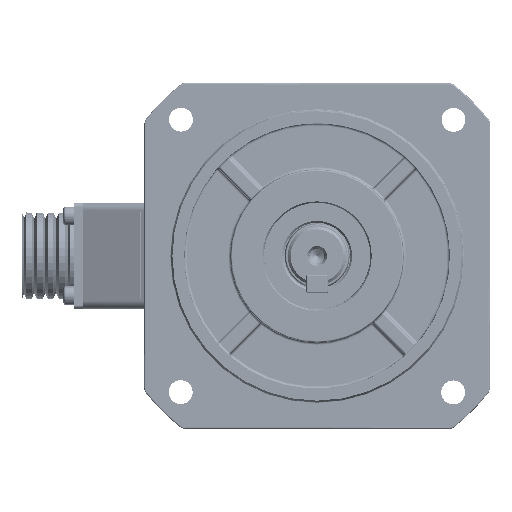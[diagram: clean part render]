
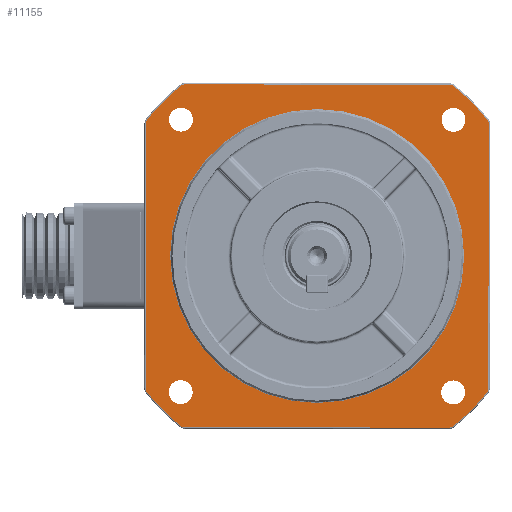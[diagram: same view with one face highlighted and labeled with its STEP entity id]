
A CAD part, left-side view. The second image highlights one B-rep face of the part: STEP entity #11155.
In plain terms, the highlighted planar face has unit normal (-1, 0, 0).
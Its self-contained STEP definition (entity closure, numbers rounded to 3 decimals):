
#1619=CARTESIAN_POINT('',(7.,51.265,-51.265));
#1620=DIRECTION('',(-1.,0.,0.));
#1621=DIRECTION('',(0.,0.,1.));
#1622=AXIS2_PLACEMENT_3D('',#1619,#1620,#1621);
#1624=CARTESIAN_POINT('',(7.,51.265,-51.265));
#1625=DIRECTION('',(-1.,0.,0.));
#1626=DIRECTION('',(0.,0.,-1.));
#1627=AXIS2_PLACEMENT_3D('',#1624,#1625,#1626);
#1629=CARTESIAN_POINT('',(7.,51.265,51.265));
#1630=DIRECTION('',(-1.,0.,0.));
#1631=DIRECTION('',(0.,-1.,0.));
#1632=AXIS2_PLACEMENT_3D('',#1629,#1630,#1631);
#1634=CARTESIAN_POINT('',(7.,51.265,51.265));
#1635=DIRECTION('',(-1.,0.,0.));
#1636=DIRECTION('',(0.,1.,0.));
#1637=AXIS2_PLACEMENT_3D('',#1634,#1635,#1636);
#1639=CARTESIAN_POINT('',(7.,-51.265,51.265));
#1640=DIRECTION('',(-1.,0.,0.));
#1641=DIRECTION('',(0.,0.,-1.));
#1642=AXIS2_PLACEMENT_3D('',#1639,#1640,#1641);
#1644=CARTESIAN_POINT('',(7.,-51.265,51.265));
#1645=DIRECTION('',(-1.,0.,0.));
#1646=DIRECTION('',(0.,0.,1.));
#1647=AXIS2_PLACEMENT_3D('',#1644,#1645,#1646);
#1649=CARTESIAN_POINT('',(7.,-51.265,-51.265));
#1650=DIRECTION('',(-1.,0.,0.));
#1651=DIRECTION('',(0.,1.,0.));
#1652=AXIS2_PLACEMENT_3D('',#1649,#1650,#1651);
#1654=CARTESIAN_POINT('',(7.,-51.265,-51.265));
#1655=DIRECTION('',(-1.,0.,0.));
#1656=DIRECTION('',(0.,-1.,0.));
#1657=AXIS2_PLACEMENT_3D('',#1654,#1655,#1656);
#1659=CARTESIAN_POINT('',(7.,0.,0.));
#1660=DIRECTION('',(-1.,0.,0.));
#1661=DIRECTION('',(0.,1.,0.));
#1662=AXIS2_PLACEMENT_3D('',#1659,#1660,#1661);
#1664=CARTESIAN_POINT('',(7.,0.,0.));
#1665=DIRECTION('',(-1.,0.,0.));
#1666=DIRECTION('',(0.,-1.,0.));
#1667=AXIS2_PLACEMENT_3D('',#1664,#1665,#1666);
#1669=CARTESIAN_POINT('',(7.,-49.762,62.));
#1670=DIRECTION('',(-1.,0.,0.));
#1671=DIRECTION('',(0.,-0.626,0.78));
#1672=AXIS2_PLACEMENT_3D('',#1669,#1670,#1671);
#1674=CARTESIAN_POINT('',(7.,0.,0.));
#1675=DIRECTION('',(-1.,0.,0.));
#1676=DIRECTION('',(0.,-0.78,0.626));
#1677=AXIS2_PLACEMENT_3D('',#1674,#1675,#1676);
#1679=CARTESIAN_POINT('',(7.,-62.,49.762));
#1680=DIRECTION('',(-1.,0.,0.));
#1681=DIRECTION('',(0.,-1.,0.));
#1682=AXIS2_PLACEMENT_3D('',#1679,#1680,#1681);
#1684=DIRECTION('',(0.,0.,1.));
#1685=VECTOR('',#1684,99.524);
#1686=CARTESIAN_POINT('',(7.,-64.5,-49.762));
#1687=LINE('',#1686,#1685);
#1688=CARTESIAN_POINT('',(7.,-62.,-49.762));
#1689=DIRECTION('',(-1.,0.,0.));
#1690=DIRECTION('',(0.,-0.78,-0.626));
#1691=AXIS2_PLACEMENT_3D('',#1688,#1689,#1690);
#1693=CARTESIAN_POINT('',(7.,0.,0.));
#1694=DIRECTION('',(-1.,0.,0.));
#1695=DIRECTION('',(0.,-0.626,-0.78));
#1696=AXIS2_PLACEMENT_3D('',#1693,#1694,#1695);
#1698=CARTESIAN_POINT('',(7.,-49.762,-62.));
#1699=DIRECTION('',(-1.,0.,0.));
#1700=DIRECTION('',(0.,0.,-1.));
#1701=AXIS2_PLACEMENT_3D('',#1698,#1699,#1700);
#1703=DIRECTION('',(0.,-1.,0.));
#1704=VECTOR('',#1703,99.524);
#1705=CARTESIAN_POINT('',(7.,49.762,-64.5));
#1706=LINE('',#1705,#1704);
#1707=CARTESIAN_POINT('',(7.,49.762,-62.));
#1708=DIRECTION('',(-1.,0.,0.));
#1709=DIRECTION('',(0.,0.626,-0.78));
#1710=AXIS2_PLACEMENT_3D('',#1707,#1708,#1709);
#1712=CARTESIAN_POINT('',(7.,0.,0.));
#1713=DIRECTION('',(-1.,0.,0.));
#1714=DIRECTION('',(0.,0.78,-0.626));
#1715=AXIS2_PLACEMENT_3D('',#1712,#1713,#1714);
#1717=CARTESIAN_POINT('',(7.,62.,-49.762));
#1718=DIRECTION('',(-1.,0.,0.));
#1719=DIRECTION('',(0.,1.,0.));
#1720=AXIS2_PLACEMENT_3D('',#1717,#1718,#1719);
#1722=DIRECTION('',(0.,0.,-1.));
#1723=VECTOR('',#1722,99.524);
#1724=CARTESIAN_POINT('',(7.,64.5,49.762));
#1725=LINE('',#1724,#1723);
#1726=CARTESIAN_POINT('',(7.,62.,49.762));
#1727=DIRECTION('',(-1.,0.,0.));
#1728=DIRECTION('',(0.,0.78,0.626));
#1729=AXIS2_PLACEMENT_3D('',#1726,#1727,#1728);
#1731=CARTESIAN_POINT('',(7.,0.,0.));
#1732=DIRECTION('',(-1.,0.,0.));
#1733=DIRECTION('',(0.,0.626,0.78));
#1734=AXIS2_PLACEMENT_3D('',#1731,#1732,#1733);
#1736=CARTESIAN_POINT('',(7.,49.762,62.));
#1737=DIRECTION('',(-1.,0.,0.));
#1738=DIRECTION('',(0.,0.,1.));
#1739=AXIS2_PLACEMENT_3D('',#1736,#1737,#1738);
#1741=DIRECTION('',(0.,1.,0.));
#1742=VECTOR('',#1741,99.524);
#1743=CARTESIAN_POINT('',(7.,-49.762,64.5));
#1744=LINE('',#1743,#1742);
#7365=CARTESIAN_POINT('',(7.,51.265,-46.765));
#7366=CARTESIAN_POINT('',(7.,51.265,-55.765));
#7367=VERTEX_POINT('',#7365);
#7368=VERTEX_POINT('',#7366);
#7373=CARTESIAN_POINT('',(7.,46.765,51.265));
#7374=CARTESIAN_POINT('',(7.,55.765,51.265));
#7375=VERTEX_POINT('',#7373);
#7376=VERTEX_POINT('',#7374);
#7381=CARTESIAN_POINT('',(7.,-51.265,46.765));
#7382=CARTESIAN_POINT('',(7.,-51.265,55.765));
#7383=VERTEX_POINT('',#7381);
#7384=VERTEX_POINT('',#7382);
#7389=CARTESIAN_POINT('',(7.,-46.765,-51.265));
#7390=CARTESIAN_POINT('',(7.,-55.765,-51.265));
#7391=VERTEX_POINT('',#7389);
#7392=VERTEX_POINT('',#7390);
#7509=CARTESIAN_POINT('',(7.,55.3,0.));
#7510=CARTESIAN_POINT('',(7.,-55.3,0.));
#7511=VERTEX_POINT('',#7509);
#7512=VERTEX_POINT('',#7510);
#8031=CARTESIAN_POINT('',(7.,-51.327,63.95));
#8032=CARTESIAN_POINT('',(7.,-49.762,64.5));
#8033=VERTEX_POINT('',#8031);
#8034=VERTEX_POINT('',#8032);
#8039=CARTESIAN_POINT('',(7.,49.762,64.5));
#8040=VERTEX_POINT('',#8039);
#8043=CARTESIAN_POINT('',(7.,51.327,63.95));
#8044=VERTEX_POINT('',#8043);
#8047=CARTESIAN_POINT('',(7.,63.95,51.327));
#8048=VERTEX_POINT('',#8047);
#8051=CARTESIAN_POINT('',(7.,64.5,49.762));
#8052=VERTEX_POINT('',#8051);
#8055=CARTESIAN_POINT('',(7.,64.5,-49.762));
#8056=VERTEX_POINT('',#8055);
#8059=CARTESIAN_POINT('',(7.,63.95,-51.327));
#8060=VERTEX_POINT('',#8059);
#8063=CARTESIAN_POINT('',(7.,51.327,-63.95));
#8064=VERTEX_POINT('',#8063);
#8067=CARTESIAN_POINT('',(7.,49.762,-64.5));
#8068=VERTEX_POINT('',#8067);
#8071=CARTESIAN_POINT('',(7.,-49.762,-64.5));
#8072=VERTEX_POINT('',#8071);
#8075=CARTESIAN_POINT('',(7.,-51.327,-63.95));
#8076=VERTEX_POINT('',#8075);
#8079=CARTESIAN_POINT('',(7.,-63.95,-51.327));
#8080=VERTEX_POINT('',#8079);
#8083=CARTESIAN_POINT('',(7.,-64.5,-49.762));
#8084=VERTEX_POINT('',#8083);
#8087=CARTESIAN_POINT('',(7.,-64.5,49.762));
#8088=VERTEX_POINT('',#8087);
#8091=CARTESIAN_POINT('',(7.,-63.95,51.327));
#8092=VERTEX_POINT('',#8091);
#11088=CARTESIAN_POINT('',(7.,0.,0.));
#11089=DIRECTION('',(-1.,0.,0.));
#11090=DIRECTION('',(0.,1.,0.));
#11091=AXIS2_PLACEMENT_3D('',#11088,#11089,#11090);
#11092=PLANE('',#11091);
#11094=ORIENTED_EDGE('',*,*,#11093,.F.);
#11096=ORIENTED_EDGE('',*,*,#11095,.F.);
#11098=ORIENTED_EDGE('',*,*,#11097,.F.);
#11100=ORIENTED_EDGE('',*,*,#11099,.F.);
#11102=ORIENTED_EDGE('',*,*,#11101,.F.);
#11104=ORIENTED_EDGE('',*,*,#11103,.F.);
#11106=ORIENTED_EDGE('',*,*,#11105,.F.);
#11108=ORIENTED_EDGE('',*,*,#11107,.F.);
#11110=ORIENTED_EDGE('',*,*,#11109,.F.);
#11112=ORIENTED_EDGE('',*,*,#11111,.F.);
#11114=ORIENTED_EDGE('',*,*,#11113,.F.);
#11116=ORIENTED_EDGE('',*,*,#11115,.F.);
#11118=ORIENTED_EDGE('',*,*,#11117,.F.);
#11120=ORIENTED_EDGE('',*,*,#11119,.F.);
#11122=ORIENTED_EDGE('',*,*,#11121,.F.);
#11124=ORIENTED_EDGE('',*,*,#11123,.F.);
#11125=EDGE_LOOP('',(#11094,#11096,#11098,#11100,#11102,#11104,#11106,#11108,
#11110,#11112,#11114,#11116,#11118,#11120,#11122,#11124));
#11126=FACE_OUTER_BOUND('',#11125,.F.);
#11127=ORIENTED_EDGE('',*,*,#11068,.T.);
#11128=ORIENTED_EDGE('',*,*,#11082,.T.);
#11129=EDGE_LOOP('',(#11127,#11128));
#11130=FACE_BOUND('',#11129,.F.);
#11132=ORIENTED_EDGE('',*,*,#11131,.T.);
#11134=ORIENTED_EDGE('',*,*,#11133,.T.);
#11135=EDGE_LOOP('',(#11132,#11134));
#11136=FACE_BOUND('',#11135,.F.);
#11138=ORIENTED_EDGE('',*,*,#11137,.T.);
#11140=ORIENTED_EDGE('',*,*,#11139,.T.);
#11141=EDGE_LOOP('',(#11138,#11140));
#11142=FACE_BOUND('',#11141,.F.);
#11144=ORIENTED_EDGE('',*,*,#11143,.T.);
#11146=ORIENTED_EDGE('',*,*,#11145,.T.);
#11147=EDGE_LOOP('',(#11144,#11146));
#11148=FACE_BOUND('',#11147,.F.);
#11150=ORIENTED_EDGE('',*,*,#11149,.T.);
#11152=ORIENTED_EDGE('',*,*,#11151,.T.);
#11153=EDGE_LOOP('',(#11150,#11152));
#11154=FACE_BOUND('',#11153,.F.);
#11155=ADVANCED_FACE('',(#11126,#11130,#11136,#11142,#11148,#11154),#11092,.T.);
#1623=CIRCLE('',#1622,4.5);
#1628=CIRCLE('',#1627,4.5);
#1633=CIRCLE('',#1632,4.5);
#1638=CIRCLE('',#1637,4.5);
#1643=CIRCLE('',#1642,4.5);
#1648=CIRCLE('',#1647,4.5);
#1653=CIRCLE('',#1652,4.5);
#1658=CIRCLE('',#1657,4.5);
#1663=CIRCLE('',#1662,55.3);
#1668=CIRCLE('',#1667,55.3);
#1673=CIRCLE('',#1672,2.5);
#1678=CIRCLE('',#1677,82.);
#1683=CIRCLE('',#1682,2.5);
#1692=CIRCLE('',#1691,2.5);
#1697=CIRCLE('',#1696,82.);
#1702=CIRCLE('',#1701,2.5);
#1711=CIRCLE('',#1710,2.5);
#1716=CIRCLE('',#1715,82.);
#1721=CIRCLE('',#1720,2.5);
#1730=CIRCLE('',#1729,2.5);
#1735=CIRCLE('',#1734,82.);
#1740=CIRCLE('',#1739,2.5);
#11068=EDGE_CURVE('',#7375,#7376,#1633,.T.);
#11082=EDGE_CURVE('',#7376,#7375,#1638,.T.);
#11093=EDGE_CURVE('',#8033,#8034,#1673,.T.);
#11095=EDGE_CURVE('',#8092,#8033,#1678,.T.);
#11097=EDGE_CURVE('',#8088,#8092,#1683,.T.);
#11099=EDGE_CURVE('',#8084,#8088,#1687,.T.);
#11101=EDGE_CURVE('',#8080,#8084,#1692,.T.);
#11103=EDGE_CURVE('',#8076,#8080,#1697,.T.);
#11105=EDGE_CURVE('',#8072,#8076,#1702,.T.);
#11107=EDGE_CURVE('',#8068,#8072,#1706,.T.);
#11109=EDGE_CURVE('',#8064,#8068,#1711,.T.);
#11111=EDGE_CURVE('',#8060,#8064,#1716,.T.);
#11113=EDGE_CURVE('',#8056,#8060,#1721,.T.);
#11115=EDGE_CURVE('',#8052,#8056,#1725,.T.);
#11117=EDGE_CURVE('',#8048,#8052,#1730,.T.);
#11119=EDGE_CURVE('',#8044,#8048,#1735,.T.);
#11121=EDGE_CURVE('',#8040,#8044,#1740,.T.);
#11123=EDGE_CURVE('',#8034,#8040,#1744,.T.);
#11131=EDGE_CURVE('',#7383,#7384,#1643,.T.);
#11133=EDGE_CURVE('',#7384,#7383,#1648,.T.);
#11137=EDGE_CURVE('',#7391,#7392,#1653,.T.);
#11139=EDGE_CURVE('',#7392,#7391,#1658,.T.);
#11143=EDGE_CURVE('',#7511,#7512,#1663,.T.);
#11145=EDGE_CURVE('',#7512,#7511,#1668,.T.);
#11149=EDGE_CURVE('',#7367,#7368,#1623,.T.);
#11151=EDGE_CURVE('',#7368,#7367,#1628,.T.);
